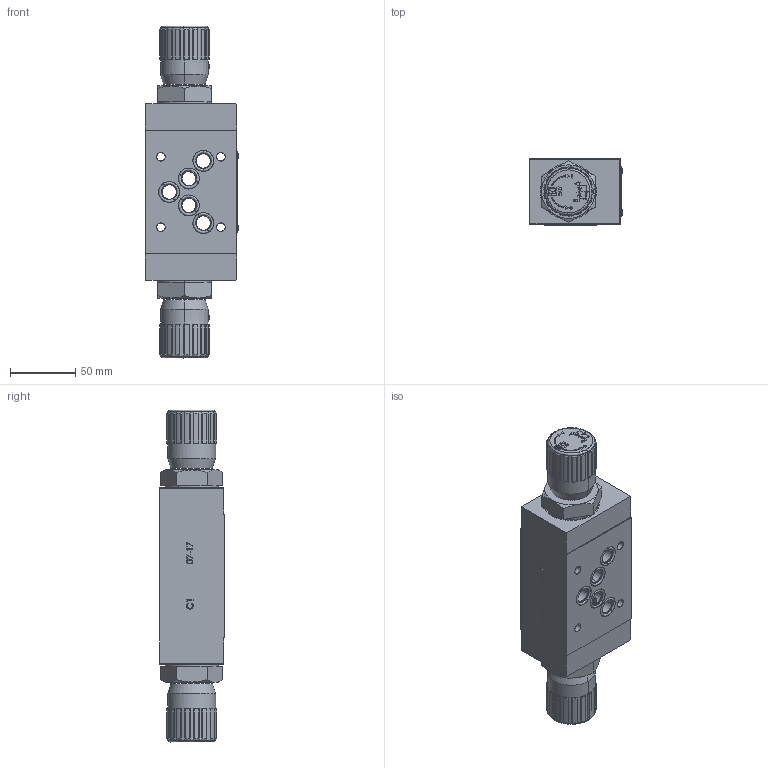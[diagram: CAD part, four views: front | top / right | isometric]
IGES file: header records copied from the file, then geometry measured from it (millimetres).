
Start section: SolidWorks IGES file using analytic representation for surfaces
Global section: file name: C:\Users\pc-te25\Desktop\357-5-AB-05.IGS; native system: SolidWorks 2018; preprocessor: SolidWorks 2018; author: pc-te25; date: 191204.084847; units: millimetre
Bounding box: 71.66 x 50.58 x 254.6 mm (x, y, z)
Surface area: 72128.3 mm2 (no closed solid volume)
Topology: 0 solids, 0 shells, 918 faces, 16031 edges, 16029 vertices
Faces by surface type: bspline 629, revolution 289
